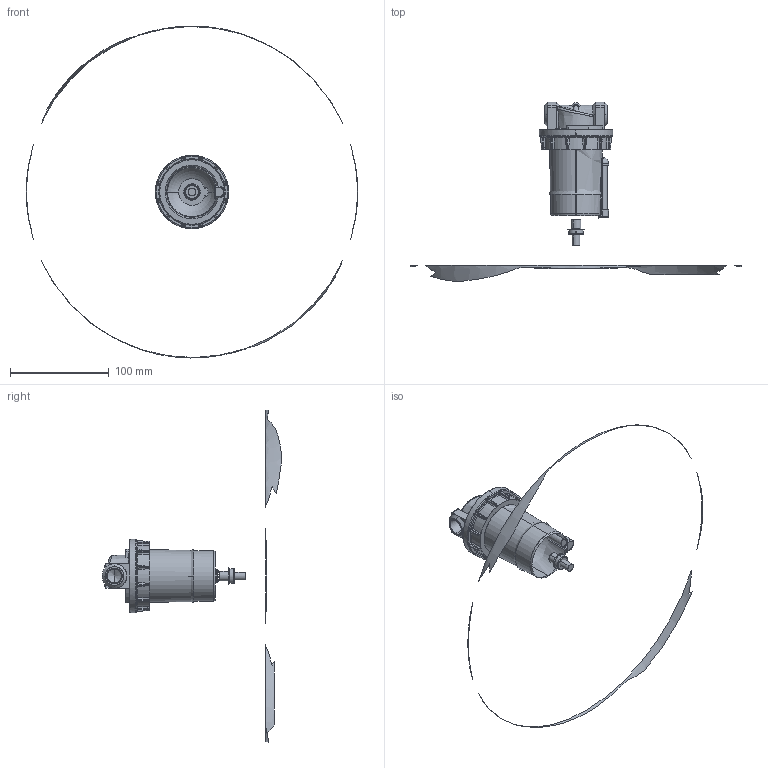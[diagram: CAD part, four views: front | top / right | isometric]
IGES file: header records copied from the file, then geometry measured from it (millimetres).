
Start section: SolidWorks IGES file using analytic representation for surfaces
Global section: file name: C:\Users\Toshiba\Desktop\F602W-03#YB#.IGS; native system: SolidWorks 2014; preprocessor: SolidWorks 2014; author: Toshiba; date: 160216.131611; units: millimetre
Bounding box: 335.1 x 181.86 x 335.68 mm (x, y, z)
Surface area: 42615.7 mm2 (no closed solid volume)
Topology: 0 solids, 0 shells, 373 faces, 4257 edges, 4252 vertices
Faces by surface type: bspline 236, revolution 137
